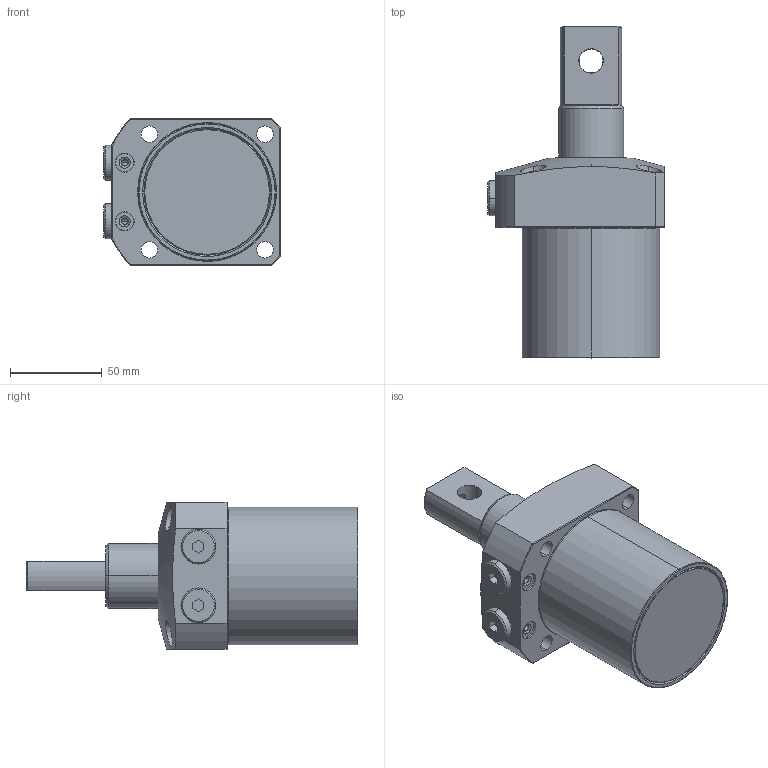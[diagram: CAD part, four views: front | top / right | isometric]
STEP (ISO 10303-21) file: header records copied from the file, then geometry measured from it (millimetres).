
FILE_DESCRIPTION(/* description */ (''),/* implementation_level */ '2;1');
FILE_NAME(/* name */ 'KTRC75-P.stp',/* time_stamp */ '2022-11-17T15:52:33+08:00',/* author */ (''),/* organization */ (''),/* preprocessor_version */ 'ST-DEVELOPER v16.7',/* originating_system */ 'SIEMENS PLM Software NX 12.0',/* authorisation */ '');
FILE_SCHEMA (('AP203_CONFIGURATION_CONTROLLED_3D_DESIGN_OF_MECHANICAL_PARTS_AND_ASSEMBLIES_MIM_LF { 1 0 10303 403 2 1 2}'));
Length unit declared in the file: millimetre
Products named in the file (4): KTRC75-P-02; KTRC75-P-03; KTRC75-P-01; LHA0750-Cx-P_rev1_step
Assembly tree (4 placements, depth 2):
  LHA0750-Cx-P_rev1_step
    KTRC75-P-01
    KTRC75-P-03  x2
    KTRC75-P-02
Bounding box: 96.5 x 181 x 80 mm (x, y, z)
Volume: 602060.1 mm3; surface area: 60213.1 mm2
Topology: 4 solids, 4 shells, 159 faces, 365 edges, 228 vertices
Faces by surface type: cylinder 64, plane 50, cone 35, torus 10
Full cylindrical faces by diameter (mm): 68 x1
Entity records: 5111 total; most frequent: CARTESIAN_POINT 1312, DIRECTION 716, ORIENTED_EDGE 672, EDGE_CURVE 336, AXIS2_PLACEMENT_3D 293, VERTEX_POINT 210, EDGE_LOOP 176, ADVANCED_FACE 146
